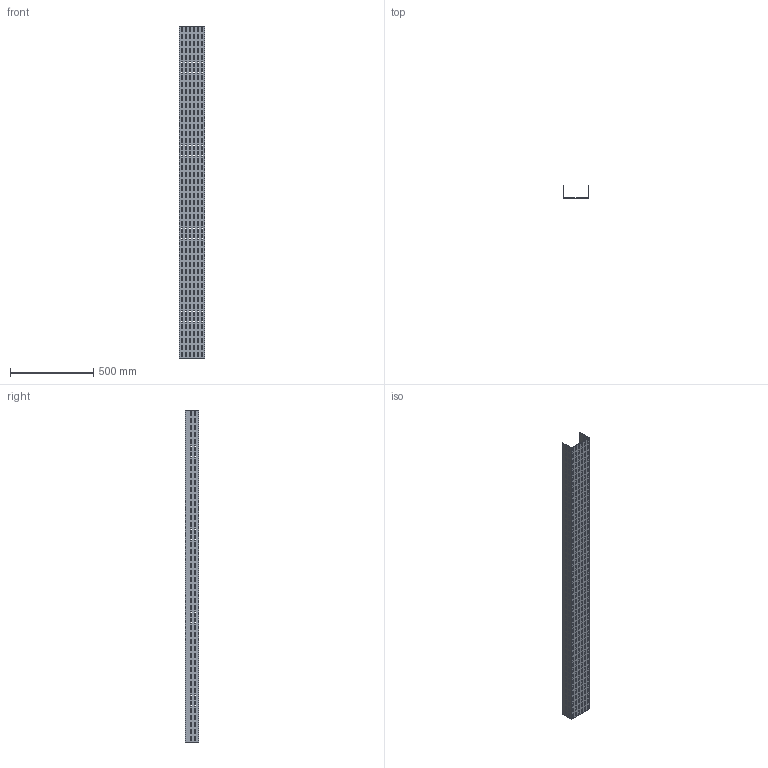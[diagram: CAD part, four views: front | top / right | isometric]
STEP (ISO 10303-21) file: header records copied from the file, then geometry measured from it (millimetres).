
FILE_DESCRIPTION (( 'STEP AP214' ), '1' );
FILE_NAME ('01F2C150.step', '2025-02-21T13:25:18', ( '' ), ( '' ), 'SwSTEP 2.0', 'SolidWorks 2023', '' );
FILE_SCHEMA (( 'AUTOMOTIVE_DESIGN' ));
Length unit declared in the file: millimetre
Products named in the file (1): 01F2C150
Bounding box: 154 x 79 x 2000 mm (x, y, z)
Volume: 1841000 mm3; surface area: 1175655 mm2
Topology: 1 solids, 1 shells, 1930 faces, 5784 edges, 3856 vertices
Faces by surface type: plane 1930
Entity records: 65591 total; most frequent: CARTESIAN_POINT 11571, ORIENTED_EDGE 11568, DIRECTION 9646, LINE 5784, EDGE_CURVE 5784, VECTOR 5784, VERTEX_POINT 3856, EDGE_LOOP 2890
